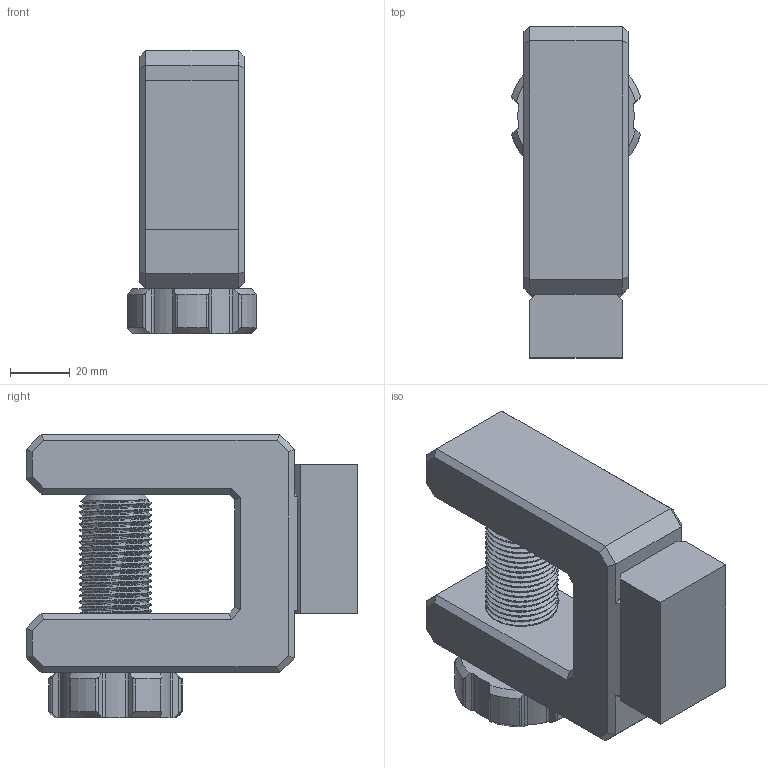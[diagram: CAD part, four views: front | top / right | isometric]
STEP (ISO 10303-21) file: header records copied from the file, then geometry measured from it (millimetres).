
FILE_DESCRIPTION(/* description */ (''),/* implementation_level */ '2;1');
FILE_NAME(/* name */ 'Modular Clamp V1 v13.step',/* time_stamp */ '2023-06-19T21:52:05+02:00',/* author */ (''),/* organization */ (''),/* preprocessor_version */ 'ST-DEVELOPER v19.2',/* originating_system */ 'Autodesk Translation Framework v12.6.0.85',/* authorisation */ '');
FILE_SCHEMA (('AUTOMOTIVE_DESIGN { 1 0 10303 214 3 1 1 }'));
Length unit declared in the file: millimetre
Products named in the file (1): Modular Clamp V1
Bounding box: 43.03 x 111.26 x 95 mm (x, y, z)
Volume: 218329.9 mm3; surface area: 47912.1 mm2
Topology: 3 solids, 3 shells, 281 faces, 774 edges, 498 vertices
Faces by surface type: cylinder 122, plane 112, bspline 25, cone 22
Full cylindrical faces by diameter (mm): 21.929 x28, 24.222 x28
Entity records: 18984 total; most frequent: CARTESIAN_POINT 12366, ORIENTED_EDGE 1548, DIRECTION 1109, EDGE_CURVE 774, VERTEX_POINT 498, LINE 423, VECTOR 423, AXIS2_PLACEMENT_3D 343
